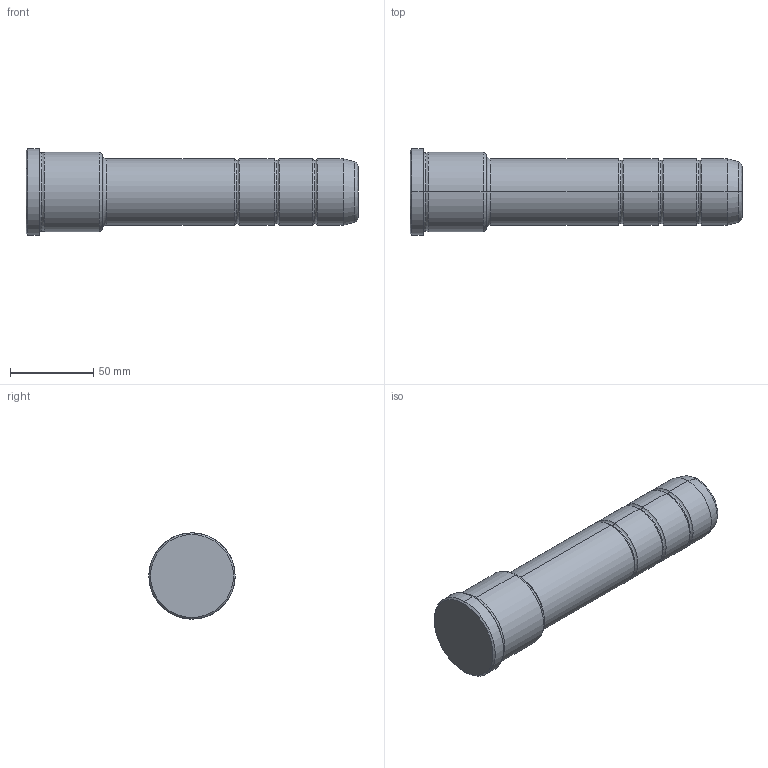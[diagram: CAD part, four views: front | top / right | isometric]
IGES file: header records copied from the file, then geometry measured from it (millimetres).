
Start section: START RECORD GO HERE.
Global section: file name: 351-40X46X200.igs; native system: DASSAULT SYSTEMES CATIA V5 R20 - www.3ds.com; preprocessor: CATIA Version 5 Release 20 ; author: Utente; organization: NB04-ASUS; date: 20211028.203457; units: millimetre
Bounding box: 200 x 52 x 52 mm (x, y, z)
Surface area: 30172.4 mm2 (no closed solid volume)
Topology: 0 solids, 0 shells, 42 faces, 236 edges, 236 vertices
Faces by surface type: revolution 38, plane 4
